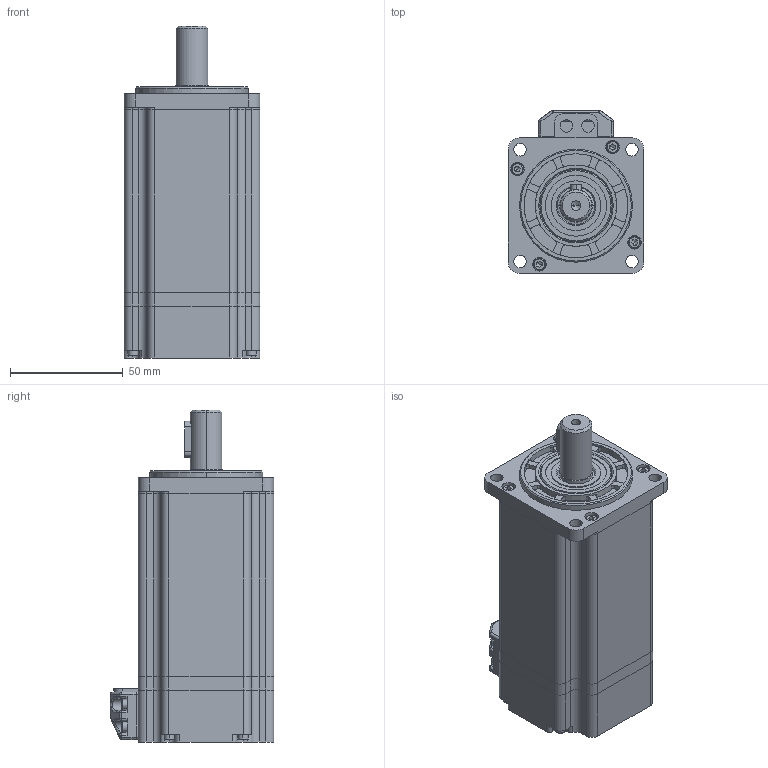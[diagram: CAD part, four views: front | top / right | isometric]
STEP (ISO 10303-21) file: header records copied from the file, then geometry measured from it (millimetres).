
FILE_DESCRIPTION (( 'STEP AP203' ), '1' );
FILE_NAME ('淕儂蚾饜.STEP', '2019-05-10T08:29:35', ( 'admin' ), ( '' ), 'SwSTEP 2.0', 'SolidWorks 2016', '' );
FILE_SCHEMA (( 'CONFIG_CONTROL_DESIGN' ));
Length unit declared in the file: millimetre
Products named in the file (1): 淕儂蚾饜
Bounding box: 60 x 72.5 x 147 mm (x, y, z)
Volume: 154928.4 mm3; surface area: 96639.6 mm2
Topology: 22 solids, 22 shells, 1268 faces, 3163 edges, 1948 vertices
Faces by surface type: cylinder 564, plane 469, cone 149, torus 48, sphere 26, bspline 12
Entity records: 38940 total; most frequent: CARTESIAN_POINT 7940, DIRECTION 6961, ORIENTED_EDGE 6158, EDGE_CURVE 3079, AXIS2_PLACEMENT_3D 2701, VERTEX_POINT 1948, VECTOR 1559, LINE 1559
